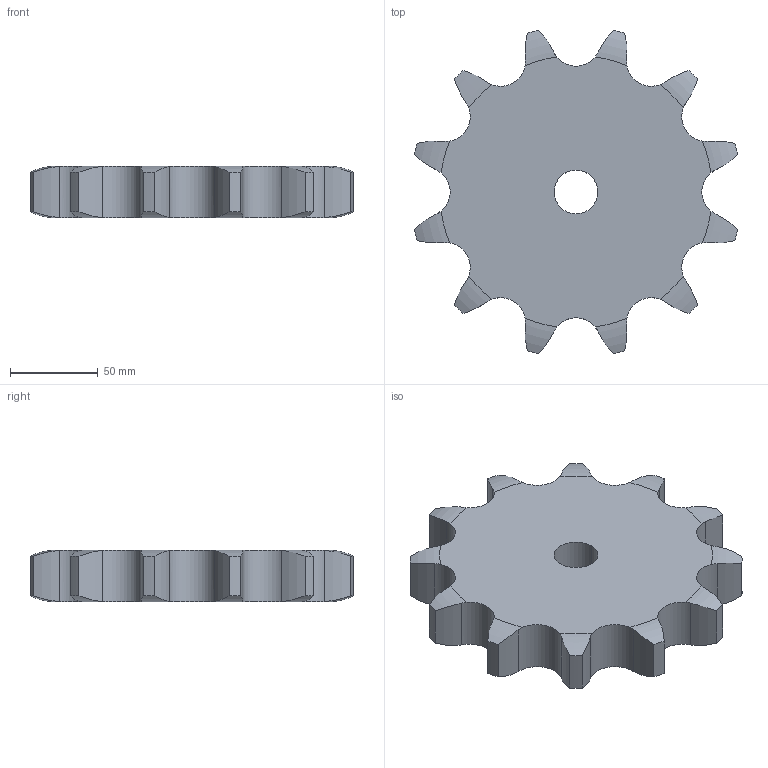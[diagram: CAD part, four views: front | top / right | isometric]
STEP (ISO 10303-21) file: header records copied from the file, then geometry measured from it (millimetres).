
FILE_DESCRIPTION((''),'2;1');
FILE_NAME('500-751-0012_PRT','2021-02-12T',('Brieden'),('Brieden'),'PRO/ENGINEER BY PARAMETRIC TECHNOLOGY CORPORATION, 2010160','PRO/ENGINEER BY PARAMETRIC TECHNOLOGY CORPORATION, 2010160','');
FILE_SCHEMA(('AUTOMOTIVE_DESIGN { 1 0 10303 214 1 1 1 1 }'));
Length unit declared in the file: millimetre
Products named in the file (1): 500-751-0012_PRT
Bounding box: 184.51 x 184.51 x 29.4 mm (x, y, z)
Volume: 587869.6 mm3; surface area: 65477.5 mm2
Topology: 1 solids, 1 shells, 76 faces, 222 edges, 148 vertices
Faces by surface type: cylinder 50, torus 24, plane 2
Entity records: 3700 total; most frequent: CARTESIAN_POINT 1059, ORIENTED_EDGE 444, DIRECTION 354, PRESENTATION_STYLE_ASSIGNMENT 223, STYLED_ITEM 223, CURVE_STYLE 222, EDGE_CURVE 222, AXIS2_PLACEMENT_3D 152
